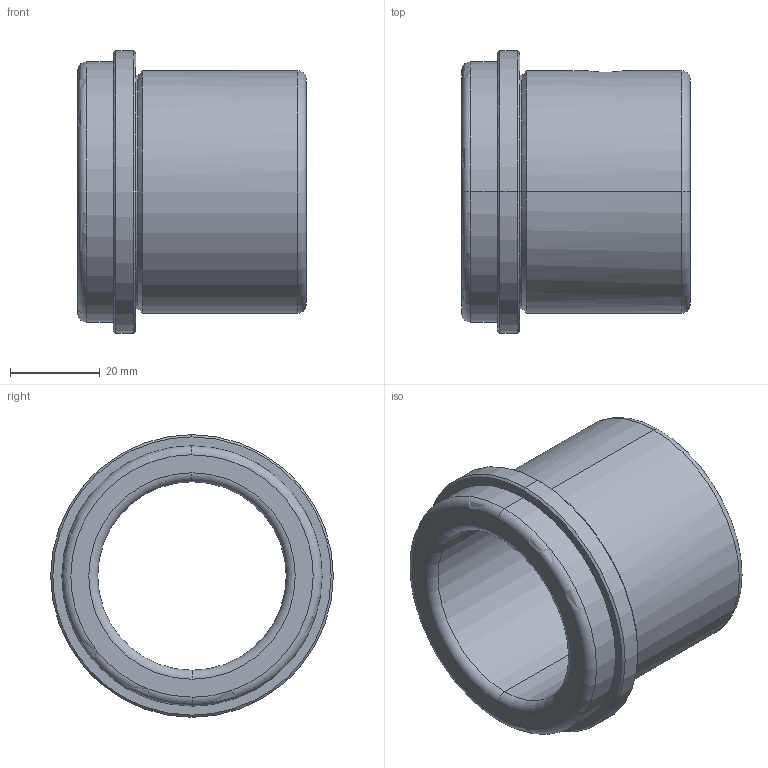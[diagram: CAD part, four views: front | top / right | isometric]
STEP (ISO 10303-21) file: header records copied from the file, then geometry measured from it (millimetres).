
FILE_DESCRIPTION(('CATIA V5 STEP Exchange'),'2;1');
FILE_NAME('C:\Users\Utente\Desktop\IO LAVORO\3D X SITO CF\X SITO\CF 631\CF 631 42 x 51.stp','2020-12-26T19:16:51+00:00',('none'),('none'),'CATIA Version 5 Release 20 GA (IN-10)','CATIA V5 STEP AP203','none');
FILE_SCHEMA(('CONFIG_CONTROL_DESIGN'));
Length unit declared in the file: millimetre
Products named in the file (1): CF 631 42 x 51
Bounding box: 51 x 63 x 63 mm (x, y, z)
Volume: 51736 mm3; surface area: 18958.3 mm2
Topology: 1 solids, 1 shells, 33 faces, 114 edges, 86 vertices
Faces by surface type: cylinder 12, torus 8, cone 8, plane 5
Entity records: 1549 total; most frequent: CARTESIAN_POINT 533, ORIENTED_EDGE 228, DIRECTION 156, EDGE_CURVE 114, AXIS2_PLACEMENT_3D 104, VERTEX_POINT 86, CIRCLE 70, EDGE_LOOP 40
